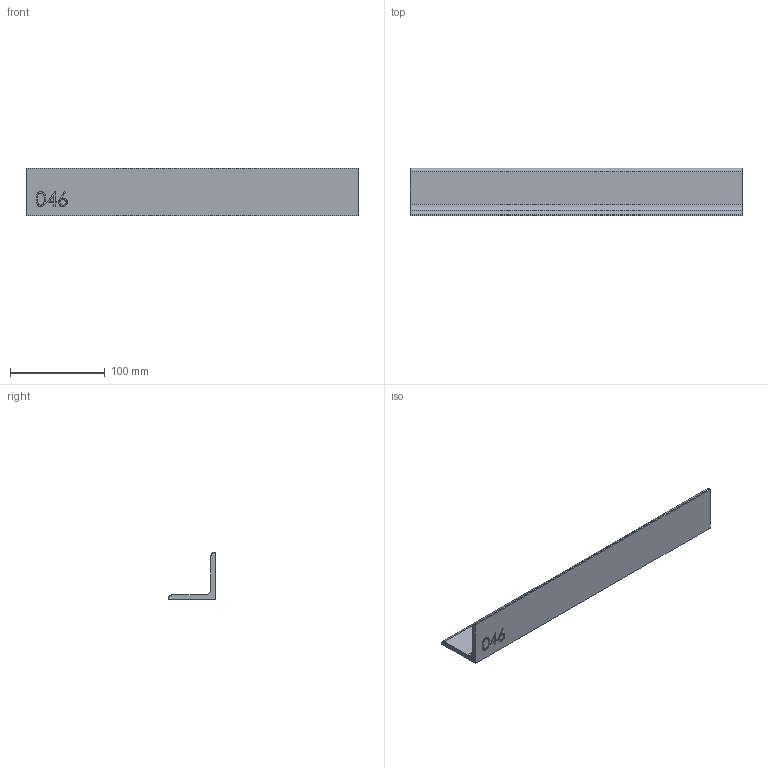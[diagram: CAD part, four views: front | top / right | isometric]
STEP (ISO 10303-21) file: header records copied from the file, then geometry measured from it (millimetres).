
FILE_DESCRIPTION (( 'STEP AP214' ), '1' );
FILE_NAME ('CCJ029-REP.046 - BUTEE PORTILLON A1-A2.STEP', '2024-01-10T14:39:37', ( '' ), ( '' ), 'SwSTEP 2.0', 'SolidWorks 2021', '' );
FILE_SCHEMA (( 'AUTOMOTIVE_DESIGN' ));
Length unit declared in the file: millimetre
Products named in the file (1): CCJ029-REP.046 - BUTEE PORTILLON A1-A2
Bounding box: 350 x 50 x 50 mm (x, y, z)
Volume: 168017.6 mm3; surface area: 68959.3 mm2
Topology: 1 solids, 1 shells, 51 faces, 129 edges, 86 vertices
Faces by surface type: plane 30, bspline 18, cylinder 3
Entity records: 2755 total; most frequent: CARTESIAN_POINT 1605, ORIENTED_EDGE 258, DIRECTION 167, EDGE_CURVE 129, LINE 87, VECTOR 87, VERTEX_POINT 86, EDGE_LOOP 57
